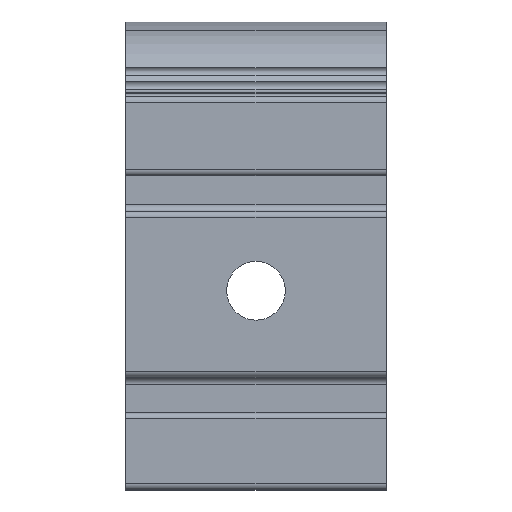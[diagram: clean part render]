
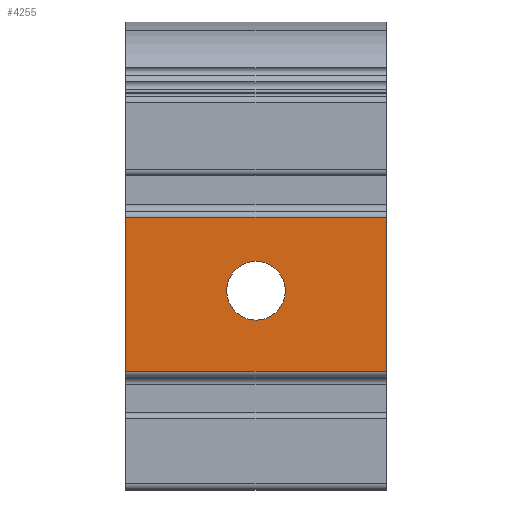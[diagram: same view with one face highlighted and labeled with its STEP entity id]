
A CAD part, front view. The second image highlights one B-rep face of the part: STEP entity #4255.
In plain terms, the highlighted planar face has unit normal (0, -1, 0).
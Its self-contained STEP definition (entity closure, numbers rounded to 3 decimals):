
#15 = EDGE_CURVE ( 'NONE', #4861, #641, #3513, .T. ) ;
#478 = DIRECTION ( 'NONE',  ( 0., 0., -1. ) ) ;
#501 = DIRECTION ( 'NONE',  ( 0., -1., 0. ) ) ;
#514 = CARTESIAN_POINT ( 'NONE',  ( 20., -70., 0. ) ) ;
#602 = CARTESIAN_POINT ( 'NONE',  ( 40., -70., -12.356 ) ) ;
#641 = VERTEX_POINT ( 'NONE', #993 ) ;
#657 = EDGE_CURVE ( 'NONE', #1900, #1539, #1422, .T. ) ;
#744 = FACE_OUTER_BOUND ( 'NONE', #1332, .T. ) ;
#896 = DIRECTION ( 'NONE',  ( 0., 0., -1. ) ) ;
#975 = DIRECTION ( 'NONE',  ( -1., 0., 0. ) ) ;
#993 = CARTESIAN_POINT ( 'NONE',  ( 0., -70., -12.356 ) ) ;
#1037 = CARTESIAN_POINT ( 'NONE',  ( 20., -70., 4.5 ) ) ;
#1130 = AXIS2_PLACEMENT_3D ( 'NONE', #514, #501, #478 ) ;
#1160 = VECTOR ( 'NONE', #896, 1000. ) ;
#1164 = CIRCLE ( 'NONE', #2449, 4.5 ) ;
#1332 = EDGE_LOOP ( 'NONE', ( #5010, #6108, #1515, #3040 ) ) ;
#1411 = CARTESIAN_POINT ( 'NONE',  ( 20., -70., 0. ) ) ;
#1422 = LINE ( 'NONE', #5958, #6253 ) ;
#1515 = ORIENTED_EDGE ( 'NONE', *, *, #5559, .F. ) ;
#1539 = VERTEX_POINT ( 'NONE', #4590 ) ;
#1697 = ORIENTED_EDGE ( 'NONE', *, *, #5042, .F. ) ;
#1858 = EDGE_CURVE ( 'NONE', #1539, #641, #2565, .T. ) ;
#1900 = VERTEX_POINT ( 'NONE', #4814 ) ;
#1927 = DIRECTION ( 'NONE',  ( 0., 0., -1. ) ) ;
#2224 = VECTOR ( 'NONE', #975, 1000. ) ;
#2266 = CARTESIAN_POINT ( 'NONE',  ( 40., -70., -12.356 ) ) ;
#2295 = EDGE_LOOP ( 'NONE', ( #4548, #1697 ) ) ;
#2411 = CARTESIAN_POINT ( 'NONE',  ( 0., -70., 11.268 ) ) ;
#2420 = DIRECTION ( 'NONE',  ( -1., 0., 0. ) ) ;
#2449 = AXIS2_PLACEMENT_3D ( 'NONE', #1411, #4795, #1927 ) ;
#2565 = LINE ( 'NONE', #2411, #3689 ) ;
#2613 = EDGE_CURVE ( 'NONE', #4601, #5908, #4921, .T. ) ;
#3040 = ORIENTED_EDGE ( 'NONE', *, *, #657, .T. ) ;
#3294 = DIRECTION ( 'NONE',  ( 0., 0., 1. ) ) ;
#3321 = CARTESIAN_POINT ( 'NONE',  ( 40., -70., 11.268 ) ) ;
#3513 = LINE ( 'NONE', #602, #2224 ) ;
#3689 = VECTOR ( 'NONE', #3996, 1000. ) ;
#3757 = CARTESIAN_POINT ( 'NONE',  ( 40., -70., 11.268 ) ) ;
#3892 = LINE ( 'NONE', #3321, #1160 ) ;
#3996 = DIRECTION ( 'NONE',  ( 0., 0., -1. ) ) ;
#4255 = ADVANCED_FACE ( 'NONE', ( #5725, #744 ), #5671, .F. ) ;
#4548 = ORIENTED_EDGE ( 'NONE', *, *, #2613, .F. ) ;
#4590 = CARTESIAN_POINT ( 'NONE',  ( 0., -70., 11.268 ) ) ;
#4601 = VERTEX_POINT ( 'NONE', #5257 ) ;
#4795 = DIRECTION ( 'NONE',  ( 0., -1., 0. ) ) ;
#4814 = CARTESIAN_POINT ( 'NONE',  ( 40., -70., 11.268 ) ) ;
#4861 = VERTEX_POINT ( 'NONE', #2266 ) ;
#4921 = CIRCLE ( 'NONE', #1130, 4.5 ) ;
#5010 = ORIENTED_EDGE ( 'NONE', *, *, #1858, .T. ) ;
#5042 = EDGE_CURVE ( 'NONE', #5908, #4601, #1164, .T. ) ;
#5257 = CARTESIAN_POINT ( 'NONE',  ( 20., -70., -4.5 ) ) ;
#5559 = EDGE_CURVE ( 'NONE', #1900, #4861, #3892, .T. ) ;
#5671 = PLANE ( 'NONE',  #6018 ) ;
#5725 = FACE_BOUND ( 'NONE', #2295, .T. ) ;
#5908 = VERTEX_POINT ( 'NONE', #1037 ) ;
#5958 = CARTESIAN_POINT ( 'NONE',  ( 40., -70., 11.268 ) ) ;
#6018 = AXIS2_PLACEMENT_3D ( 'NONE', #3757, #6165, #3294 ) ;
#6108 = ORIENTED_EDGE ( 'NONE', *, *, #15, .F. ) ;
#6165 = DIRECTION ( 'NONE',  ( 0., 1., 0. ) ) ;
#6253 = VECTOR ( 'NONE', #2420, 1000. ) ;
